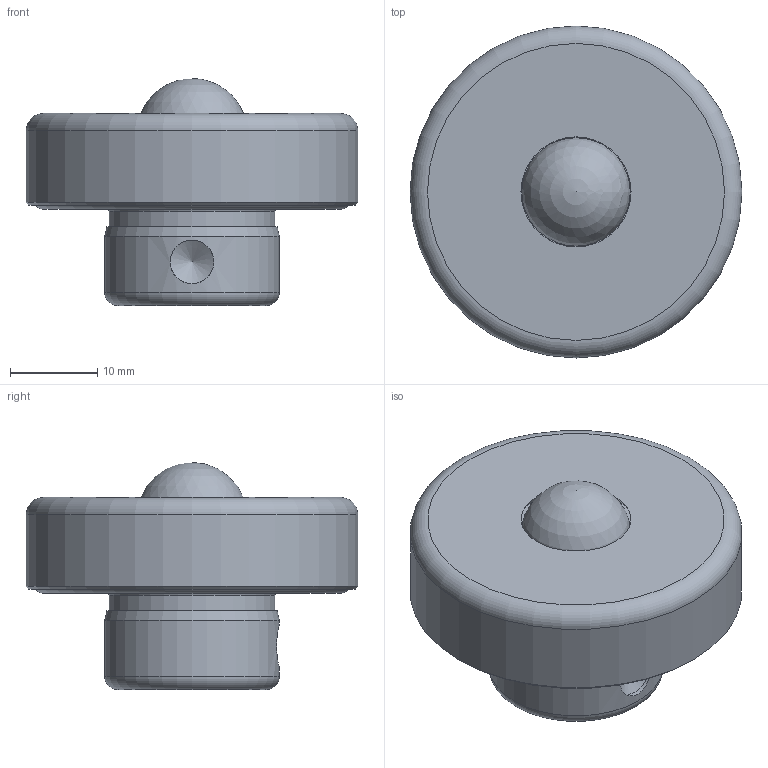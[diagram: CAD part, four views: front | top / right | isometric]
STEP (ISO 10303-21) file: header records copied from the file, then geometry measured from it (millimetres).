
FILE_DESCRIPTION(/* description */ (''),/* implementation_level */ '2;1');
FILE_NAME(/* name */ 'Z:\80-CAD共有ファイル\製品3D\X2\30C730FC30BF\X0\\21-S\S-13.stp',/* time_stamp */ '2015-01-06T16:05:17+09:00',/* author */ ('yamaki'),/* organization */ (''),/* preprocessor_version */ 'ST-DEVELOPER v15.6',/* originating_system */ 'Autodesk Inventor 2015',/* authorisation */ '');
FILE_SCHEMA (('AUTOMOTIVE_DESIGN { 1 0 10303 214 3 1 1 }'));
Length unit declared in the file: millimetre
Products named in the file (3): 2113AT-01; 1270; 2113AT
Bounding box: 38 x 38 x 26 mm (x, y, z)
Volume: 15850.7 mm3; surface area: 4964 mm2
Topology: 2 solids, 2 shells, 22 faces, 43 edges, 26 vertices
Faces by surface type: plane 6, cylinder 5, cone 5, torus 4, sphere 2
Full cylindrical faces by diameter (mm): 5 x1, 19 x1, 20 x1, 36 x1, 38 x1
Entity records: 536 total; most frequent: CARTESIAN_POINT 104, DIRECTION 92, AXIS2_PLACEMENT_3D 46, ORIENTED_EDGE 42, EDGE_LOOP 40, ADVANCED_FACE 22, FACE_OUTER_BOUND 21, VERTEX_POINT 21
